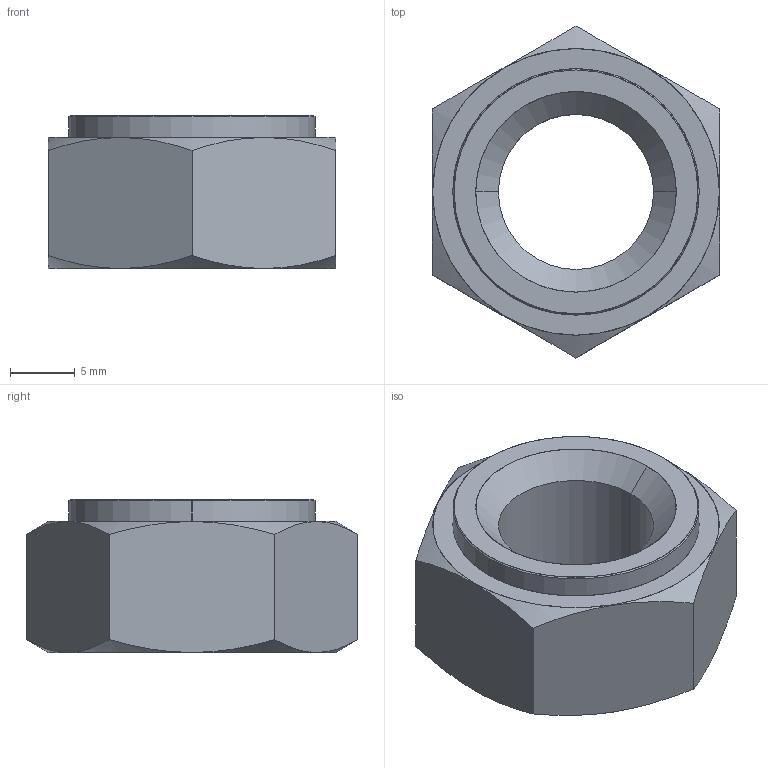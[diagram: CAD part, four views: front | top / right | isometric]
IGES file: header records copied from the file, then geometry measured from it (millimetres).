
Start section: SolidWorks IGES file using analytic representation for surfaces
Global section: file name: C:\Users\liam_\OneDrive\Desktop\Work\Mat Davis Pending 20181125\automotion\P SERIES\P0827.ZP_v2\P0827.ZP_v2_20181231_IGES\P0827.100-18G-ZP.igs; native system: SolidWorks 2017; preprocessor: SolidWorks 2017; author: liam_; date: 181231.111027; units: millimetre
Bounding box: 22.22 x 25.66 x 11.86 mm (x, y, z)
Surface area: 1844.8 mm2 (no closed solid volume)
Topology: 0 solids, 0 shells, 23 faces, 448 edges, 448 vertices
Faces by surface type: revolution 14, bspline 9
